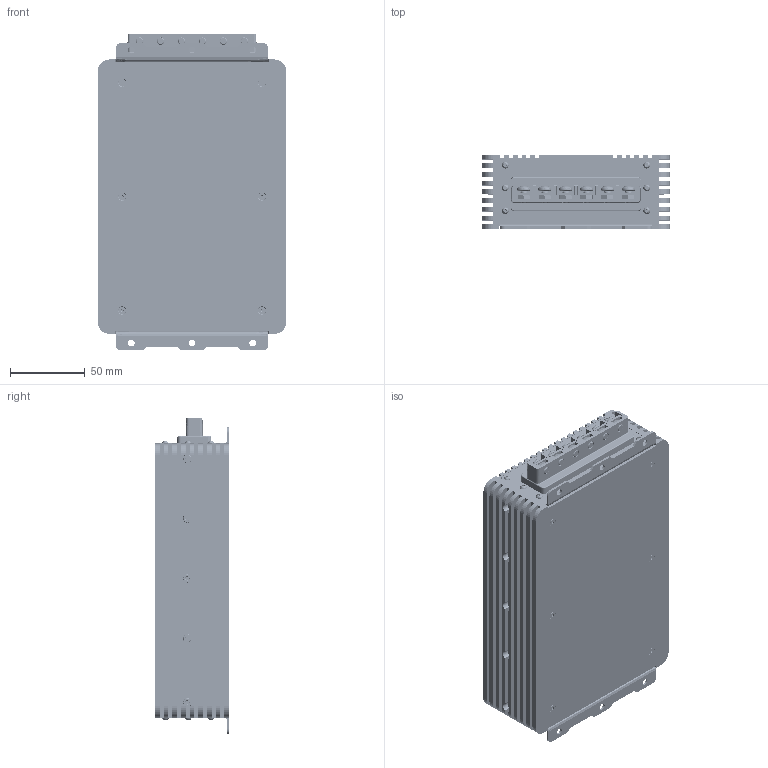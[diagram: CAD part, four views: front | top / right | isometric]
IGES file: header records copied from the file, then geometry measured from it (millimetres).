
Start section: SolidWorks IGES file using analytic representation for surfaces
Global section: file name: H:\FREELACER\NEW 2017\41\Pro 15_MC 160 A Extrusion\1.Origin\MC160A - V7\MC160A-V7-shrink wrap.IGS; native system: SolidWorks 2018; preprocessor: SolidWorks 2018; author: DUY MINH; date: 190425.141234; units: millimetre
Bounding box: 125.92 x 49.53 x 211.97 mm (x, y, z)
Surface area: 185859.8 mm2 (no closed solid volume)
Topology: 0 solids, 0 shells, 2520 faces, 33889 edges, 33889 vertices
Faces by surface type: revolution 1332, bspline 1188
